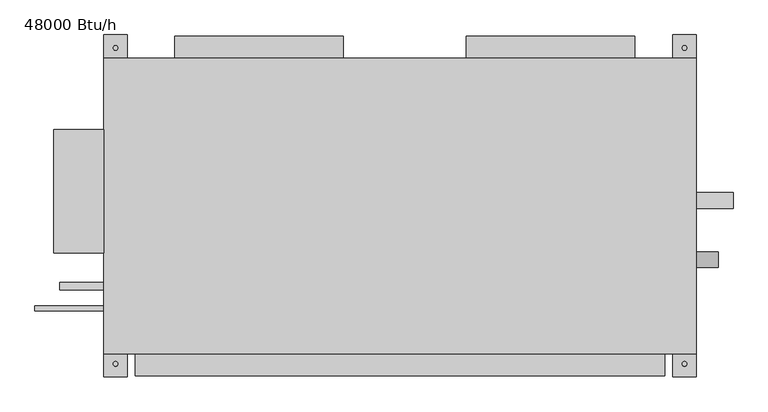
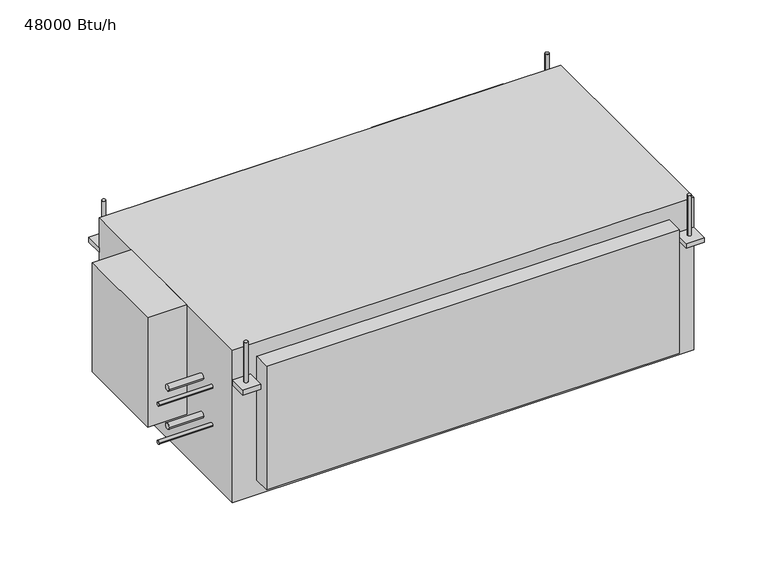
"""IFC4 building model written with IfcOpenShell, lengths in millimetres: proxy geometry, Lennox-VRF-48,54_Btu-High_Static_Ducted-VHIA-2P_Series : 48000 Btu/h."""

from ifc_helpers import new_model, si_unit, point, frame, frame_2d, origin, origin_with_axes, place, context, project, spatial, polyline, circle_curve, trimmed, segment, composite_curve, outline, extrude, source, transform, mapped, element, save
from ifc_brep_helpers import plane_surface, cylinder_surface, advanced_brep


def proxy_48000_btu_h_a64f102a(model_context):
    return source(origin(), model_context, "Body", "SolidModel", [
        advanced_brep(
        [(696.0, -124.875, 44.0), (696.0, -93.125, 44.0), (696.0, -109.0, 44.0), (651.0, -124.875, 44.0), (651.0, -93.125, 44.0), (651.0, -109.0, 44.0)],
        [
            (0, 1, circle_curve(frame((696.0, -109.0, 44.0), z_axis=(1.0, 0.0, 0.0), x_axis=(0.0, 1.0, 0.0)), 15.875)),
            (1, 2),
            (2, 0),
            (1, 0, circle_curve(frame((696.0, -109.0, 44.0), z_axis=(1.0, 0.0, 0.0), x_axis=(0.0, 1.0, 0.0)), 15.875)),
            (3, 4, circle_curve(frame((651.0, -109.0, 44.0), z_axis=(1.0, 0.0, 0.0), x_axis=(0.0, 1.0, 0.0)), 15.875)),
            (4, 1),
            (0, 3),
            (4, 3, circle_curve(frame((651.0, -109.0, 44.0), z_axis=(1.0, 0.0, 0.0), x_axis=(0.0, 1.0, 0.0)), 15.875)),
            (5, 4),
            (3, 5),
        ],
        [
            plane_surface(frame((696.0, -109.0, 44.0), z_axis=(1.0, 0.0, 0.0), x_axis=(0.0, 1.0, 0.0))),
            cylinder_surface(frame((651.0, -109.0, 44.0), z_axis=(-1.0, 0.0, 0.0), x_axis=(0.0, 1.0, 0.0)), 15.875),
            plane_surface(frame((651.0, -109.0, 44.0), z_axis=(-1.0, 0.0, 0.0), x_axis=(0.0, 1.0, 0.0))),
        ],
        [
            (0, [[1, 2, 3]]),
            (0, [[4, -3, -2]]),
            (1, [[5, 6, -1, 7]]),
            (1, [[8, -7, -4, -6]]),
            (2, [[9, -5, 10]]),
            (2, [[-10, -8, -9]]),
        ],
    ),
        advanced_brep(
        [(651.0, 26.875, 25.0), (651.0, -4.875, 25.0), (651.0, 11.0, 25.0), (726.0, 26.875, 25.0), (726.0, -4.875, 25.0), (726.0, 11.0, 25.0)],
        [
            (0, 1, circle_curve(frame((651.0, 11.0, 25.0), z_axis=(-1.0, 0.0, 0.0), x_axis=(0.0, -1.0, 0.0)), 15.875)),
            (1, 2),
            (2, 0),
            (1, 0, circle_curve(frame((651.0, 11.0, 25.0), z_axis=(-1.0, 0.0, 0.0), x_axis=(0.0, -1.0, 0.0)), 15.875)),
            (3, 4, circle_curve(frame((726.0, 11.0, 25.0), z_axis=(-1.0, 0.0, 0.0), x_axis=(0.0, -1.0, 0.0)), 15.875)),
            (4, 1),
            (0, 3),
            (4, 3, circle_curve(frame((726.0, 11.0, 25.0), z_axis=(-1.0, 0.0, 0.0), x_axis=(0.0, -1.0, 0.0)), 15.875)),
            (5, 4),
            (3, 5),
        ],
        [
            plane_surface(frame((651.0, 11.0, 25.0), z_axis=(-1.0, 0.0, 0.0), x_axis=(0.0, -1.0, 0.0))),
            cylinder_surface(frame((1602.890044, 11.0, 25.0), z_axis=(1.0, 0.0, 0.0), x_axis=(0.0, -1.0, 0.0)), 15.875),
            plane_surface(frame((726.0, 11.0, 25.0), z_axis=(1.0, 0.0, 0.0), x_axis=(0.0, -1.0, 0.0))),
        ],
        [
            (0, [[1, 2, 3]]),
            (0, [[4, -3, -2]]),
            (1, [[5, 6, -1, 7]]),
            (1, [[8, -7, -4, -6]]),
            (2, [[9, -5, 10]]),
            (2, [[-10, -8, -9]]),
        ],
    ),
        extrude(outline(composite_curve([segment(trimmed(circle_curve(frame_2d((-163.0, 159.0)), 7.9375), [point((-170.9375, 159.0))], [point((-155.0625, 159.0))], False, "CARTESIAN"), True, "CONTINUOUS"), segment(trimmed(circle_curve(frame_2d((-163.0, 159.0)), 7.9375), [point((-155.0625, 159.0))], [point((-170.9375, 159.0))], False, "CARTESIAN"), True, "CONTINUOUS")], self_intersect=False)), frame((-639.0, 0.0, 0.0), z_axis=(1.0, 0.0, 0.0), x_axis=(0.0, 1.0, 0.0)), (0.0, 0.0, 1.0), 90.0),
        extrude(outline(composite_curve([segment(trimmed(circle_curve(frame_2d((-208.0, 159.0)), 4.7625), [point((-212.7625, 159.0))], [point((-203.2375, 159.0))], False, "CARTESIAN"), True, "CONTINUOUS"), segment(trimmed(circle_curve(frame_2d((-208.0, 159.0)), 4.7625), [point((-203.2375, 159.0))], [point((-212.7625, 159.0))], False, "CARTESIAN"), True, "CONTINUOUS")], self_intersect=False)), frame((-689.0, 0.0, 0.0), z_axis=(1.0, 0.0, 0.0), x_axis=(0.0, 1.0, 0.0)), (0.0, 0.0, 1.0), 140.0),
        extrude(outline(polyline([(651.0, 347.0), (651.0, 300.0), (604.0, 300.0), (604.0, 347.0), (651.0, 347.0)]), holes=[composite_curve([segment(trimmed(circle_curve(frame_2d((627.5, 320.5)), 4.7625), [point((622.7375, 320.5))], [point((632.2625, 320.5))], True, "CARTESIAN"), True, "CONTINUOUS"), segment(trimmed(circle_curve(frame_2d((627.5, 320.5)), 4.7625), [point((632.2625, 320.5))], [point((622.7375, 320.5))], True, "CARTESIAN"), True, "CONTINUOUS")], self_intersect=False)]), frame((0.0, 0.0, 324.0), z_axis=(0.0, 0.0, 1.0), x_axis=(1.0, 0.0, 0.0)), (0.0, 0.0, 1.0), 13.0),
        extrude(outline(polyline([(-502.0, 347.0), (-502.0, 300.0), (-549.0, 300.0), (-549.0, 347.0), (-502.0, 347.0)]), holes=[composite_curve([segment(trimmed(circle_curve(frame_2d((-525.5, 320.5)), 4.7625), [point((-530.2625, 320.5))], [point((-520.7375, 320.5))], True, "CARTESIAN"), True, "CONTINUOUS"), segment(trimmed(circle_curve(frame_2d((-525.5, 320.5)), 4.7625), [point((-520.7375, 320.5))], [point((-530.2625, 320.5))], True, "CARTESIAN"), True, "CONTINUOUS")], self_intersect=False)]), frame((0.0, 0.0, 324.0), z_axis=(0.0, 0.0, 1.0), x_axis=(1.0, 0.0, 0.0)), (0.0, 0.0, 1.0), 13.0),
        extrude(outline(polyline([(-502.0, -300.0), (-502.0, -347.0), (-549.0, -347.0), (-549.0, -300.0), (-502.0, -300.0)]), holes=[composite_curve([segment(trimmed(circle_curve(frame_2d((-525.5, -320.5)), 4.7625), [point((-530.2625, -320.5))], [point((-520.7375, -320.5))], True, "CARTESIAN"), True, "CONTINUOUS"), segment(trimmed(circle_curve(frame_2d((-525.5, -320.5)), 4.7625), [point((-520.7375, -320.5))], [point((-530.2625, -320.5))], True, "CARTESIAN"), True, "CONTINUOUS")], self_intersect=False)]), frame((0.0, 0.0, 324.0), z_axis=(0.0, 0.0, 1.0), x_axis=(1.0, 0.0, 0.0)), (0.0, 0.0, 1.0), 13.0),
        extrude(outline(polyline([(651.0, -300.0), (651.0, -347.0), (604.0, -347.0), (604.0, -300.0), (651.0, -300.0)]), holes=[composite_curve([segment(trimmed(circle_curve(frame_2d((627.5, -320.5)), 4.7625), [point((622.7375, -320.5))], [point((632.2625, -320.5))], True, "CARTESIAN"), True, "CONTINUOUS"), segment(trimmed(circle_curve(frame_2d((627.5, -320.5)), 4.7625), [point((632.2625, -320.5))], [point((622.7375, -320.5))], True, "CARTESIAN"), True, "CONTINUOUS")], self_intersect=False)]), frame((0.0, 0.0, 324.0), z_axis=(0.0, 0.0, 1.0), x_axis=(1.0, 0.0, 0.0)), (0.0, 0.0, 1.0), 13.0),
        extrude(outline(composite_curve([segment(trimmed(circle_curve(frame_2d((627.5, 320.5)), 4.7625), [point((622.7375, 320.5))], [point((632.2625, 320.5))], False, "CARTESIAN"), True, "CONTINUOUS"), segment(trimmed(circle_curve(frame_2d((627.5, 320.5)), 4.7625), [point((632.2625, 320.5))], [point((622.7375, 320.5))], False, "CARTESIAN"), True, "CONTINUOUS")], self_intersect=False)), frame((0.0, 0.0, 319.0), z_axis=(0.0, 0.0, 1.0), x_axis=(1.0, 0.0, 0.0)), (0.0, 0.0, 1.0), 128.0),
        extrude(outline(composite_curve([segment(trimmed(circle_curve(frame_2d((627.5, -320.5)), 4.7625), [point((622.7375, -320.5))], [point((632.2625, -320.5))], False, "CARTESIAN"), True, "CONTINUOUS"), segment(trimmed(circle_curve(frame_2d((627.5, -320.5)), 4.7625), [point((632.2625, -320.5))], [point((622.7375, -320.5))], False, "CARTESIAN"), True, "CONTINUOUS")], self_intersect=False)), frame((0.0, 0.0, 319.0), z_axis=(0.0, 0.0, 1.0), x_axis=(1.0, 0.0, 0.0)), (0.0, 0.0, 1.0), 128.0),
        extrude(outline(composite_curve([segment(trimmed(circle_curve(frame_2d((-525.5, 320.5)), 4.7625), [point((-530.2625, 320.5))], [point((-520.7375, 320.5))], False, "CARTESIAN"), True, "CONTINUOUS"), segment(trimmed(circle_curve(frame_2d((-525.5, 320.5)), 4.7625), [point((-520.7375, 320.5))], [point((-530.2625, 320.5))], False, "CARTESIAN"), True, "CONTINUOUS")], self_intersect=False)), frame((0.0, 0.0, 319.0), z_axis=(0.0, 0.0, 1.0), x_axis=(1.0, 0.0, 0.0)), (0.0, 0.0, 1.0), 128.0),
        extrude(outline(composite_curve([segment(trimmed(circle_curve(frame_2d((-525.5, -320.5)), 4.7625), [point((-530.2625, -320.5))], [point((-520.7375, -320.5))], False, "CARTESIAN"), True, "CONTINUOUS"), segment(trimmed(circle_curve(frame_2d((-525.5, -320.5)), 4.7625), [point((-520.7375, -320.5))], [point((-530.2625, -320.5))], False, "CARTESIAN"), True, "CONTINUOUS")], self_intersect=False)), frame((0.0, 0.0, 319.0), z_axis=(0.0, 0.0, 1.0), x_axis=(1.0, 0.0, 0.0)), (0.0, 0.0, 1.0), 128.0),
        extrude(outline(polyline([(-549.0, 155.0), (-549.0, -95.0), (-651.0, -95.0), (-651.0, 155.0), (-549.0, 155.0)])), frame((0.0, 0.0, 119.0), z_axis=(0.0, 0.0, 1.0), x_axis=(1.0, 0.0, 0.0)), (0.0, 0.0, 1.0), 300.0),
        extrude(outline(composite_curve([segment(trimmed(circle_curve(frame_2d((-163.0, 264.0)), 7.9375), [point((-170.9375, 264.0))], [point((-155.0625, 264.0))], False, "CARTESIAN"), True, "CONTINUOUS"), segment(trimmed(circle_curve(frame_2d((-163.0, 264.0)), 7.9375), [point((-155.0625, 264.0))], [point((-170.9375, 264.0))], False, "CARTESIAN"), True, "CONTINUOUS")], self_intersect=False)), frame((-639.0, 0.0, 0.0), z_axis=(1.0, 0.0, 0.0), x_axis=(0.0, 1.0, 0.0)), (0.0, 0.0, 1.0), 90.0),
        extrude(outline(composite_curve([segment(trimmed(circle_curve(frame_2d((-208.0, 264.0)), 4.7625), [point((-212.7625, 264.0))], [point((-203.2375, 264.0))], False, "CARTESIAN"), True, "CONTINUOUS"), segment(trimmed(circle_curve(frame_2d((-208.0, 264.0)), 4.7625), [point((-203.2375, 264.0))], [point((-212.7625, 264.0))], False, "CARTESIAN"), True, "CONTINUOUS")], self_intersect=False)), frame((-689.0, 0.0, 0.0), z_axis=(1.0, 0.0, 0.0), x_axis=(0.0, 1.0, 0.0)), (0.0, 0.0, 1.0), 140.0),
        extrude(outline(polyline([(587.5, -300.0), (587.5, -344.5), (-485.5, -344.5), (-485.5, -300.0), (587.5, -300.0)])), frame((0.0, 0.0, 39.5), z_axis=(0.0, 0.0, 1.0), x_axis=(1.0, 0.0, 0.0)), (0.0, 0.0, 1.0), 340.0),
        extrude(outline(polyline([(-64.5, 344.5), (-64.5, 300.0), (-406.0, 300.0), (-406.0, 344.5), (-64.5, 344.5)])), frame((0.0, 0.0, 133.0), z_axis=(0.0, 0.0, 1.0), x_axis=(1.0, 0.0, 0.0)), (0.0, 0.0, 1.0), 251.0),
        extrude(outline(polyline([(527.0, 344.5), (527.0, 300.0), (185.5, 300.0), (185.5, 344.5), (527.0, 344.5)])), frame((0.0, 0.0, 133.0), z_axis=(0.0, 0.0, 1.0), x_axis=(1.0, 0.0, 0.0)), (0.0, 0.0, 1.0), 251.0),
        extrude(outline(polyline([(651.0, 300.0), (651.0, -300.0), (-549.0, -300.0), (-549.0, 300.0), (651.0, 300.0)])), origin_with_axes(), (0.0, 0.0, 1.0), 419.0),
    ])


if __name__ == "__main__":
    model = new_model("IFC4")
    model_context = context("Model", 3, world=origin())
    ifc_project = project(units=[si_unit("LENGTHUNIT", "METRE", prefix="MILLI")], contexts=[model_context])
    site = spatial("IfcSite", under=ifc_project)
    building = spatial("IfcBuilding", under=site)
    placement = place(None, origin())
    proxy_48000_btu_h_shape = proxy_48000_btu_h_a64f102a(model_context)
    element("IfcBuildingElementProxy", 1, Name="Lennox-VRF-48,54_Btu-High_Static_Ducted-VHIA-2P_Series : 48000 Btu/h", ObjectType="Lennox-VRF-48,54_Btu-High_Static_Ducted-VHIA-2P_Series : 48000 Btu/h", at=placement, inside=building, context=model_context, shape_type="MappedRepresentation", body=[
        mapped(proxy_48000_btu_h_shape, transform((0.0, 0.0, 0.0), x_axis=(1.0, 0.0, 0.0), y_axis=(0.0, 1.0, 0.0), z_axis=(0.0, 0.0, 1.0))),
    ])
    save(model, "model.ifc")
